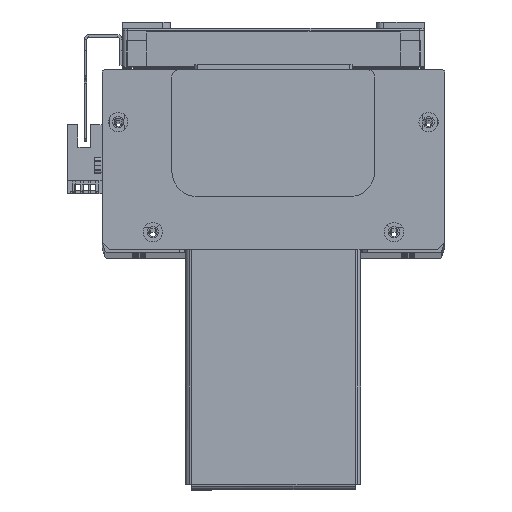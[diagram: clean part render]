
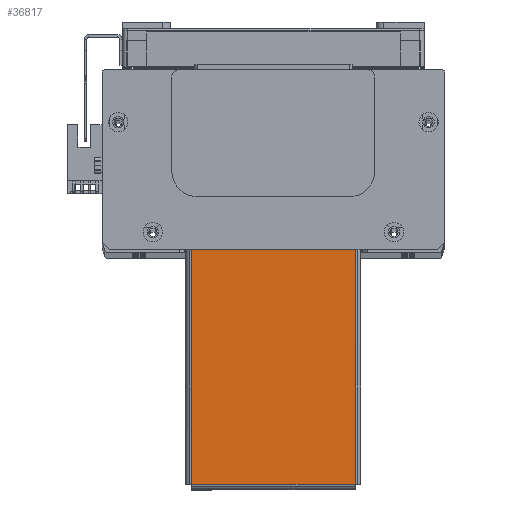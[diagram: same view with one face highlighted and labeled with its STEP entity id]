
A CAD part, top view. The second image highlights one B-rep face of the part: STEP entity #36817.
In plain terms, the highlighted planar face has unit normal (0, 0, 1) as drawn and (0, -1, 0) by its records, which use the part's own axes.
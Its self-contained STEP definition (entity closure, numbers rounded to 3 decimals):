
#14818 = CARTESIAN_POINT ( 'NONE',  ( -94.793, -1.5, -32.263 ) ) ;
#14835 = DIRECTION ( 'NONE',  ( 1., 0., 0. ) ) ;
#14858 = DIRECTION ( 'NONE',  ( 0., 0., -1. ) ) ;
#14874 = CARTESIAN_POINT ( 'NONE',  ( 94.793, -1.5, 32.263 ) ) ;
#14879 = DIRECTION ( 'NONE',  ( -1., 0., 0. ) ) ;
#14893 = CARTESIAN_POINT ( 'NONE',  ( -94.763, -1.5, 32.293 ) ) ;
#18944 = CARTESIAN_POINT ( 'NONE',  ( -2., -1.5, 34.5 ) ) ;
#18961 = DIRECTION ( 'NONE',  ( 0., 0., -1. ) ) ;
#27950 = CARTESIAN_POINT ( 'NONE',  ( -94.763, -1.5, -32.263 ) ) ;
#27954 = CARTESIAN_POINT ( 'NONE',  ( -94.763, -1.5, 32.263 ) ) ;
#27977 = CARTESIAN_POINT ( 'NONE',  ( -2., -1.5, 32.263 ) ) ;
#28011 = CARTESIAN_POINT ( 'NONE',  ( -2., -1.5, -32.263 ) ) ;
#29746 = ORIENTED_EDGE ( 'NONE', *, *, #63142, .T. ) ;
#36817 = ADVANCED_FACE ( 'NONE', ( #47227 ), #46015, .F. ) ;
#41497 = ORIENTED_EDGE ( 'NONE', *, *, #51579, .F. ) ;
#41543 = ORIENTED_EDGE ( 'NONE', *, *, #63135, .T. ) ;
#41584 = ORIENTED_EDGE ( 'NONE', *, *, #63119, .T. ) ;
#42509 = LINE ( 'NONE', #18944, #42545 ) ;
#42535 = LINE ( 'NONE', #14818, #42543 ) ;
#42543 = VECTOR ( 'NONE', #14835, 1000. ) ;
#42545 = VECTOR ( 'NONE', #18961, 1000. ) ;
#42665 = LINE ( 'NONE', #14893, #42715 ) ;
#42679 = LINE ( 'NONE', #14874, #42737 ) ;
#42715 = VECTOR ( 'NONE', #14858, 1000. ) ;
#42737 = VECTOR ( 'NONE', #14879, 1000. ) ;
#45976 = CARTESIAN_POINT ( 'NONE',  ( 0., -1.5, 0. ) ) ;
#45978 = DIRECTION ( 'NONE',  ( 0., 0., 1. ) ) ;
#45998 = DIRECTION ( 'NONE',  ( 0., 1., 0. ) ) ;
#46015 = PLANE ( 'NONE',  #49571 ) ;
#47227 = FACE_OUTER_BOUND ( 'NONE', #57984, .T. ) ;
#49571 = AXIS2_PLACEMENT_3D ( 'NONE', #45976, #45998, #45978 ) ;
#51579 = EDGE_CURVE ( 'NONE', #59901, #59961, #42509, .T. ) ;
#57984 = EDGE_LOOP ( 'NONE', ( #41584, #41497, #29746, #41543 ) ) ;
#59878 = VERTEX_POINT ( 'NONE', #27954 ) ;
#59901 = VERTEX_POINT ( 'NONE', #27977 ) ;
#59908 = VERTEX_POINT ( 'NONE', #27950 ) ;
#59961 = VERTEX_POINT ( 'NONE', #28011 ) ;
#63119 = EDGE_CURVE ( 'NONE', #59908, #59961, #42535, .T. ) ;
#63135 = EDGE_CURVE ( 'NONE', #59878, #59908, #42665, .T. ) ;
#63142 = EDGE_CURVE ( 'NONE', #59901, #59878, #42679, .T. ) ;
